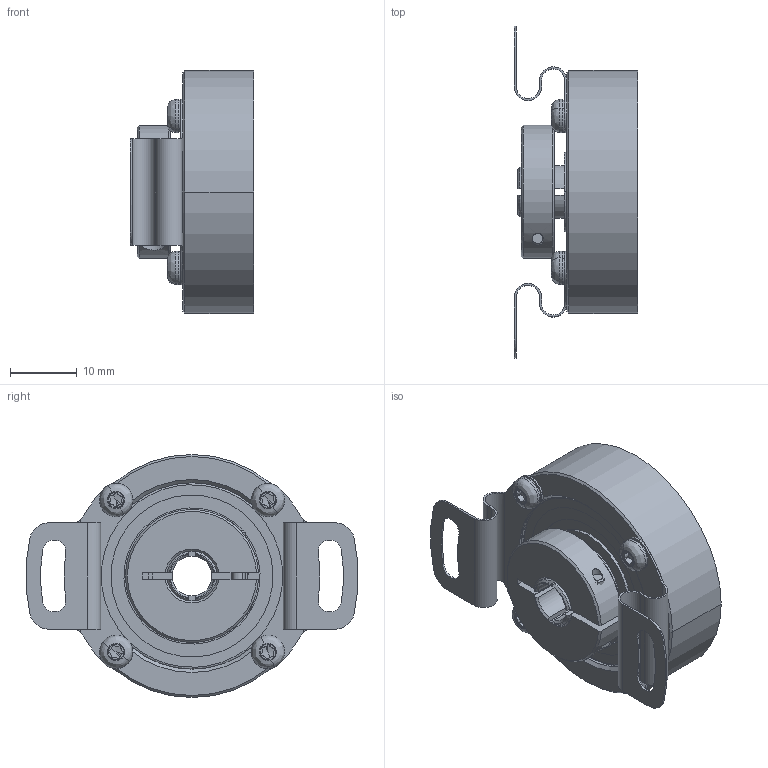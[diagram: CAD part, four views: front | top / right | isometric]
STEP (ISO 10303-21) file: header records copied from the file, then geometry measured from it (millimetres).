
FILE_DESCRIPTION (( 'STEP AP214' ), '1' );
FILE_NAME ('drawing-ucd-v6s0-q3a-n.STEP', '2017-01-16T13:42:59', ( '' ), ( '' ), 'SwSTEP 2.0', 'SolidWorks 2015', '' );
FILE_SCHEMA (( 'AUTOMOTIVE_DESIGN' ));
Length unit declared in the file: millimetre
Products named in the file (1): drawing-ucd-v6s0-q3a-n
Bounding box: 18.5 x 49.85 x 36.5 mm (x, y, z)
Volume: 10363.9 mm3; surface area: 13889.4 mm2
Topology: 23 solids, 23 shells, 566 faces, 1466 edges, 899 vertices
Faces by surface type: cylinder 196, plane 137, cone 121, bspline 108, torus 4
Entity records: 27122 total; most frequent: CARTESIAN_POINT 7522, ORIENTED_EDGE 2788, DIRECTION 2730, EDGE_CURVE 1394, AXIS2_PLACEMENT_3D 1167, VERTEX_POINT 899, CIRCLE 708, EDGE_LOOP 637
